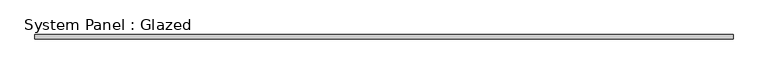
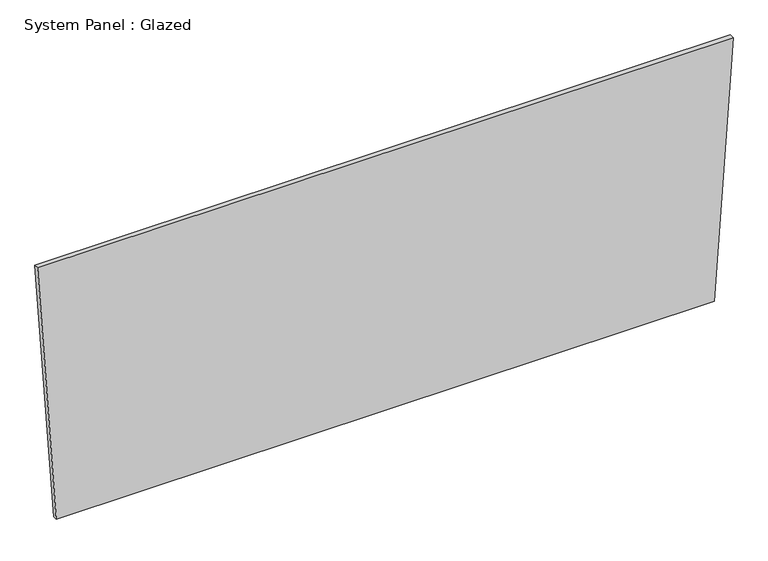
"""IFC4 building model written with IfcOpenShell, lengths in millimetres: plate geometry, System Panel : Glazed."""

from ifc_helpers import new_model, si_unit, frame, origin, place, context, project, spatial, polyline, outline, extrude, source, transform, mapped, element, save


def system_panel_glazed_139bc032(model_context):
    return source(origin(), model_context, "Body", "SweptSolid", [
        extrude(outline(polyline([(0.0, -1836.1667867), (0.0, 1836.1667867), (1520.432163, 1940.3878862), (1520.432163, -1940.3878862), (0.0, -1836.1667867)])), frame((0.0, 19.05, 0.0), z_axis=(0.0, 1.0, 0.0), x_axis=(0.0, 0.0, 1.0)), (0.0, 0.0, 1.0), 25.4),
    ])


if __name__ == "__main__":
    model = new_model("IFC4")
    model_context = context("Model", 3, world=origin())
    ifc_project = project(units=[si_unit("LENGTHUNIT", "METRE", prefix="MILLI")], contexts=[model_context])
    site = spatial("IfcSite", under=ifc_project)
    building = spatial("IfcBuilding", under=site)
    placement = place(None, origin())
    system_panel_glazed_shape = system_panel_glazed_139bc032(model_context)
    element("IfcPlate", 1, ObjectType="System Panel : Glazed", at=placement, inside=building, context=model_context, shape_type="MappedRepresentation", body=[
        mapped(system_panel_glazed_shape, transform((0.0, 0.0, 0.0), x_axis=(1.0, 0.0, 0.0), y_axis=(0.0, 1.0, 0.0), z_axis=(0.0, 0.0, 1.0))),
    ])
    save(model, "model.ifc")
